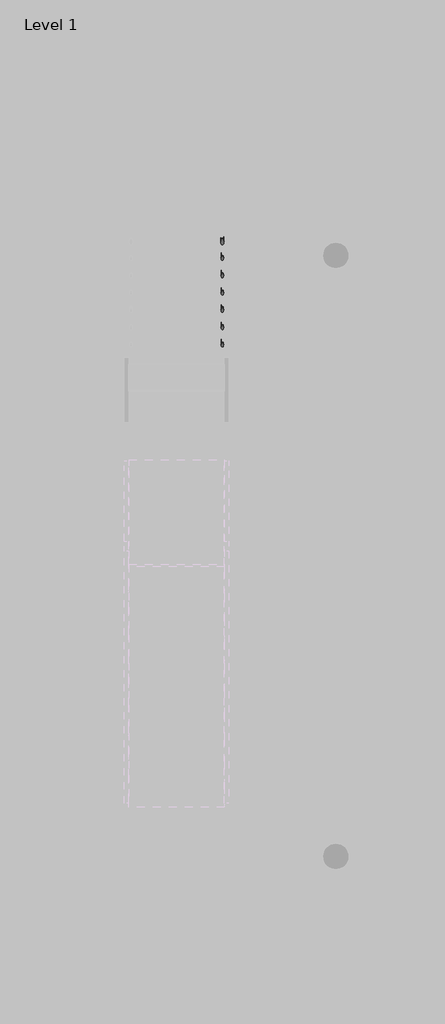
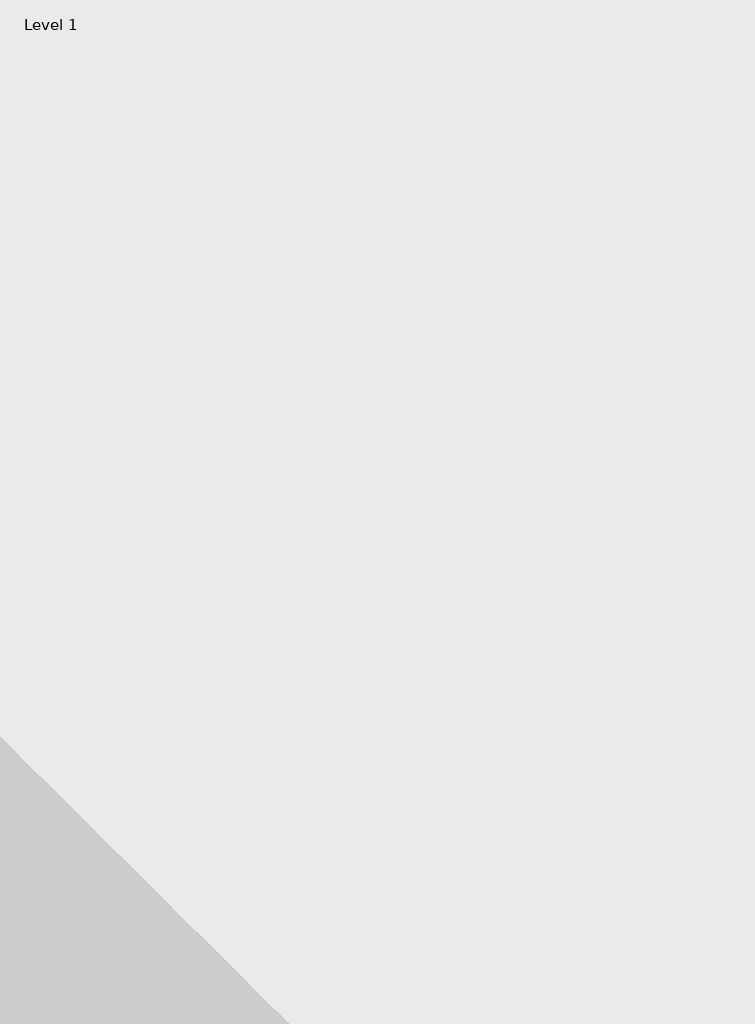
# One storey, part 24 of 27: 1 railing.
"""IFC4 building model written with IfcOpenShell, lengths in millimetres."""

from ifc_helpers import new_model, si_unit, frame, origin, place, context, project, spatial, circle_curve, ellipse_curve, element, save
from ifc_brep_helpers import plane_surface, cylinder_surface, advanced_brep

model = new_model("IFC4")

# Units and contexts
model_context = context("Model", 3, world=origin())
ifc_project = project(units=[si_unit("LENGTHUNIT", "METRE", prefix="MILLI")], contexts=[model_context])

# Site, building, storey
site = spatial("IfcSite", under=ifc_project)
building = spatial("IfcBuilding", under=site)
storey = spatial("IfcBuildingStorey", under=building, Name="Level 1", Elevation=0.0)

# Railing
placement = place(None, origin())
element("IfcRailing", 1, ObjectType="900mm Pipe", at=placement, inside=storey, context=model_context, shape_type="AdvancedBrep", body=[
    advanced_brep(
    [(3623.2567657, 6000.5392059, 1049.1094102), (3663.2567657, 6000.5392059, 1049.1094102), (3623.2567657, 3244.779188, 2780.0), (3663.2567657, 3244.779188, 2780.0), (3623.2567657, 2319.779188, 2780.0), (3663.2567657, 2319.779188, 2780.0), (3623.2567657, 2039.9015087, 2955.790939), (3663.2567657, 2039.9015087, 2955.790939), (3623.2567657, -699.4607941, 4676.3821375), (3663.2567657, -699.4607941, 4676.3821375)],
    [
        (0, 1, ellipse_curve(frame((3643.2567657, 6000.5392059, 1049.1094102), z_axis=(0.0, 1.0, 0.0), x_axis=(0.0, 0.0, -1.0)), 23.6178625, 20.0)),
        (1, 0, ellipse_curve(frame((3643.2567657, 6000.5392059, 1049.1094102), z_axis=(0.0, 1.0, 0.0), x_axis=(0.0, 0.0, -1.0)), 23.6178625, 20.0)),
        (0, 2),
        (2, 3, ellipse_curve(frame((3643.2567657, 3244.779188, 2780.0), z_axis=(0.0, 0.9609413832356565, -0.2767519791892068), x_axis=(0.0, -0.2767519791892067, -0.9609413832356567)), 20.812924, 20.0)),
        (3, 1),
        (3, 2, ellipse_curve(frame((3643.2567657, 3244.779188, 2780.0), z_axis=(0.0, 0.9609413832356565, -0.2767519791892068), x_axis=(0.0, -0.2767519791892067, -0.9609413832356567)), 20.812924, 20.0)),
        (2, 4),
        (4, 5, ellipse_curve(frame((3643.2567657, 2319.779188, 2780.0), z_axis=(0.0, 0.9609413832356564, -0.2767519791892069), x_axis=(0.0, 0.27675197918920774, 0.9609413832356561)), 20.812924, 20.0)),
        (5, 3),
        (5, 4, ellipse_curve(frame((3643.2567657, 2319.779188, 2780.0), z_axis=(0.0, 0.9609413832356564, -0.2767519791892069), x_axis=(0.0, 0.27675197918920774, 0.9609413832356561)), 20.812924, 20.0)),
        (4, 6),
        (6, 7, circle_curve(frame((3643.2567657, 2039.9015087, 2955.790939), z_axis=(0.0, 0.8468166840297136, -0.5318848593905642), x_axis=(1.0, 0.0, 0.0)), 20.0)),
        (7, 5),
        (7, 6, circle_curve(frame((3643.2567657, 2039.9015087, 2955.790939), z_axis=(0.0, 0.8468166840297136, -0.5318848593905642), x_axis=(1.0, 0.0, 0.0)), 20.0)),
        (8, 9, ellipse_curve(frame((3643.2567657, -699.4607941, 4676.3821375), z_axis=(0.0, -1.0, 0.0), x_axis=(0.0, 0.0, -1.0)), 23.6178625, 20.0)),
        (9, 8, ellipse_curve(frame((3643.2567657, -699.4607941, 4676.3821375), z_axis=(0.0, -1.0, 0.0), x_axis=(0.0, 0.0, -1.0)), 23.6178625, 20.0)),
        (6, 8),
        (9, 7),
    ],
    [
        plane_surface(frame((3643.2567657, 6000.5392059, 1072.7272727), z_axis=(0.0, 1.0, 0.0), x_axis=(0.0, 0.0, -1.0))),
        cylinder_surface(frame((3643.2567657, 5989.9015087, 1055.790939), z_axis=(0.0, 0.8468166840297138, -0.5318848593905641), x_axis=(1.0, 0.0, 0.0)), 20.0),
        cylinder_surface(frame((3643.2567657, 3250.5392059, 2780.0), z_axis=(0.0, 1.0, 0.0), x_axis=(1.0, 0.0, 0.0)), 20.0),
        cylinder_surface(frame((3643.2567657, 2314.9015087, 2783.0636663), z_axis=(0.0, 0.8468166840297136, -0.5318848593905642), x_axis=(1.0, 0.0, 0.0)), 20.0),
        plane_surface(frame((3643.2567657, -699.4607941, 4700.0), z_axis=(0.0, -1.0, 0.0), x_axis=(0.0, 0.0, -1.0))),
        cylinder_surface(frame((3643.2567657, 2039.9015087, 2955.790939), z_axis=(0.0, 0.8468166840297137, -0.5318848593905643), x_axis=(1.0, 0.0, 0.0)), 20.0),
    ],
    [
        (0, [[1, 2]]),
        (1, [[-1, 3, 4, 5]]),
        (1, [[-2, -5, 6, -3]]),
        (2, [[-4, 7, 8, 9]]),
        (2, [[-6, -9, 10, -7]]),
        (3, [[-8, 11, 12, 13]]),
        (3, [[-10, -13, 14, -11]]),
        (4, [[15, 16]]),
        (5, [[-12, 17, -16, 18]]),
        (5, [[-14, -18, -15, -17]]),
    ],
),
    advanced_brep(
    [(3628.2567657, 6000.5392059, 930.0138759), (3658.2567657, 6000.5392059, 930.0138759), (3628.2567657, 3250.5392059, 2657.2866031), (3658.2567657, 3250.5392059, 2657.2866031)],
    [
        (0, 1, ellipse_curve(frame((3643.2567657, 6000.5392059, 930.0138759), z_axis=(0.0, 1.0, 0.0), x_axis=(0.0, 0.0, -1.0)), 17.7133969, 15.0)),
        (1, 0, ellipse_curve(frame((3643.2567657, 6000.5392059, 930.0138759), z_axis=(0.0, 1.0, 0.0), x_axis=(0.0, 0.0, -1.0)), 17.7133969, 15.0)),
        (2, 3, ellipse_curve(frame((3643.2567657, 3250.5392059, 2657.2866031), z_axis=(0.0, -1.0, 0.0), x_axis=(0.0, 0.0, -1.0)), 17.7133969, 15.0)),
        (3, 2, ellipse_curve(frame((3643.2567657, 3250.5392059, 2657.2866031), z_axis=(0.0, -1.0, 0.0), x_axis=(0.0, 0.0, -1.0)), 17.7133969, 15.0)),
        (0, 2),
        (3, 1),
    ],
    [
        plane_surface(frame((3643.2567657, 6000.5392059, 947.7272727), z_axis=(0.0, 1.0, 0.0), x_axis=(0.0, 0.0, -1.0))),
        plane_surface(frame((3643.2567657, 3250.5392059, 2675.0), z_axis=(0.0, -1.0, 0.0), x_axis=(0.0, 0.0, -1.0))),
        cylinder_surface(frame((3643.2567657, 5992.560933, 935.0250225), z_axis=(0.0, 0.8468166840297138, -0.5318848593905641), x_axis=(1.0, 0.0, 0.0)), 15.0),
    ],
    [
        (0, [[1, 2]]),
        (1, [[3, 4]]),
        (2, [[-1, 5, -4, 6]]),
        (2, [[-2, -6, -3, -5]]),
    ],
),
    advanced_brep(
    [(3628.2567657, 3250.5392059, 2660.0), (3658.2567657, 3250.5392059, 2660.0), (3628.2567657, 2321.2191925, 2660.0), (3658.2567657, 2321.2191925, 2660.0), (3628.2567657, 2050.5392059, 2830.0138759), (3658.2567657, 2050.5392059, 2830.0138759)],
    [
        (0, 1, circle_curve(frame((3643.2567657, 3250.5392059, 2660.0), z_axis=(0.0, 1.0, 0.0), x_axis=(1.0, 0.0, 0.0)), 15.0)),
        (1, 0, circle_curve(frame((3643.2567657, 3250.5392059, 2660.0), z_axis=(0.0, 1.0, 0.0), x_axis=(1.0, 0.0, 0.0)), 15.0)),
        (0, 2),
        (2, 3, ellipse_curve(frame((3643.2567657, 2321.2191925, 2660.0), z_axis=(0.0, 0.9609413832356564, -0.2767519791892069), x_axis=(0.0, 0.2767519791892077, 0.9609413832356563)), 15.609693, 15.0)),
        (3, 1),
        (3, 2, ellipse_curve(frame((3643.2567657, 2321.2191925, 2660.0), z_axis=(0.0, 0.9609413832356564, -0.2767519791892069), x_axis=(0.0, 0.2767519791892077, 0.9609413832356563)), 15.609693, 15.0)),
        (4, 5, ellipse_curve(frame((3643.2567657, 2050.5392059, 2830.0138759), z_axis=(0.0, -1.0, 0.0), x_axis=(0.0, 0.0, -0.9999999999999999)), 17.7133969, 15.0)),
        (5, 4, ellipse_curve(frame((3643.2567657, 2050.5392059, 2830.0138759), z_axis=(0.0, -1.0, 0.0), x_axis=(0.0, 0.0, -0.9999999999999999)), 17.7133969, 15.0)),
        (2, 4),
        (5, 3),
    ],
    [
        plane_surface(frame((3643.2567657, 3250.5392059, 2675.0), z_axis=(0.0, 1.0, 0.0), x_axis=(0.0, 0.0, -1.0))),
        cylinder_surface(frame((3643.2567657, 3250.5392059, 2660.0), z_axis=(0.0, 1.0, 0.0), x_axis=(1.0, 0.0, 0.0)), 15.0),
        plane_surface(frame((3643.2567657, 2050.5392059, 2847.7272727), z_axis=(0.0, -1.0, 0.0), x_axis=(0.0, 0.0, -1.0))),
        cylinder_surface(frame((3643.2567657, 2317.560933, 2662.2977497), z_axis=(0.0, 0.8468166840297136, -0.5318848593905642), x_axis=(1.0, 0.0, 0.0)), 15.0),
    ],
    [
        (0, [[1, 2]]),
        (1, [[-1, 3, 4, 5]]),
        (1, [[-2, -5, 6, -3]]),
        (2, [[7, 8]]),
        (3, [[-4, 9, -8, 10]]),
        (3, [[-6, -10, -7, -9]]),
    ],
),
    advanced_brep(
    [(3628.2567657, 2050.5392059, 2830.0138759), (3658.2567657, 2050.5392059, 2830.0138759), (3628.2567657, -699.4607941, 4557.2866031), (3658.2567657, -699.4607941, 4557.2866031)],
    [
        (0, 1, ellipse_curve(frame((3643.2567657, 2050.5392059, 2830.0138759), z_axis=(0.0, 1.0, 0.0), x_axis=(0.0, 0.0, -0.9999999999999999)), 17.7133969, 15.0)),
        (1, 0, ellipse_curve(frame((3643.2567657, 2050.5392059, 2830.0138759), z_axis=(0.0, 1.0, 0.0), x_axis=(0.0, 0.0, -0.9999999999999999)), 17.7133969, 15.0)),
        (2, 3, ellipse_curve(frame((3643.2567657, -699.4607941, 4557.2866031), z_axis=(0.0, -1.0, 0.0), x_axis=(0.0, 0.0, -0.9999999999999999)), 17.7133969, 15.0)),
        (3, 2, ellipse_curve(frame((3643.2567657, -699.4607941, 4557.2866031), z_axis=(0.0, -1.0, 0.0), x_axis=(0.0, 0.0, -0.9999999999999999)), 17.7133969, 15.0)),
        (0, 2),
        (3, 1),
    ],
    [
        plane_surface(frame((3643.2567657, 2050.5392059, 2847.7272727), z_axis=(0.0, 1.0, 0.0), x_axis=(0.0, 0.0, -1.0))),
        plane_surface(frame((3643.2567657, -699.4607941, 4575.0), z_axis=(0.0, -1.0, 0.0), x_axis=(0.0, 0.0, -1.0))),
        cylinder_surface(frame((3643.2567657, 2042.560933, 2835.0250225), z_axis=(0.0, 0.8468166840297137, -0.5318848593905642), x_axis=(1.0, 0.0, 0.0)), 15.0),
    ],
    [
        (0, [[1, 2]]),
        (1, [[3, 4]]),
        (2, [[-1, 5, -4, 6]]),
        (2, [[-2, -6, -3, -5]]),
    ],
),
    advanced_brep(
    [(3628.2567657, 6000.5392059, 805.0138759), (3658.2567657, 6000.5392059, 805.0138759), (3628.2567657, 3250.5392059, 2532.2866031), (3658.2567657, 3250.5392059, 2532.2866031)],
    [
        (0, 1, ellipse_curve(frame((3643.2567657, 6000.5392059, 805.0138759), z_axis=(0.0, 1.0, 0.0), x_axis=(0.0, 0.0, -1.0)), 17.7133969, 15.0)),
        (1, 0, ellipse_curve(frame((3643.2567657, 6000.5392059, 805.0138759), z_axis=(0.0, 1.0, 0.0), x_axis=(0.0, 0.0, -1.0)), 17.7133969, 15.0)),
        (2, 3, ellipse_curve(frame((3643.2567657, 3250.5392059, 2532.2866031), z_axis=(0.0, -1.0, 0.0), x_axis=(0.0, 0.0, -1.0)), 17.7133969, 15.0)),
        (3, 2, ellipse_curve(frame((3643.2567657, 3250.5392059, 2532.2866031), z_axis=(0.0, -1.0, 0.0), x_axis=(0.0, 0.0, -1.0)), 17.7133969, 15.0)),
        (0, 2),
        (3, 1),
    ],
    [
        plane_surface(frame((3643.2567657, 6000.5392059, 822.7272727), z_axis=(0.0, 1.0, 0.0), x_axis=(0.0, 0.0, -1.0))),
        plane_surface(frame((3643.2567657, 3250.5392059, 2550.0), z_axis=(0.0, -1.0, 0.0), x_axis=(0.0, 0.0, -1.0))),
        cylinder_surface(frame((3643.2567657, 5992.560933, 810.0250225), z_axis=(0.0, 0.8468166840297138, -0.5318848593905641), x_axis=(1.0, 0.0, 0.0)), 15.0),
    ],
    [
        (0, [[1, 2]]),
        (1, [[3, 4]]),
        (2, [[-1, 5, -4, 6]]),
        (2, [[-2, -6, -3, -5]]),
    ],
),
    advanced_brep(
    [(3628.2567657, 3250.5392059, 2535.0), (3658.2567657, 3250.5392059, 2535.0), (3628.2567657, 2321.2191925, 2535.0), (3658.2567657, 2321.2191925, 2535.0), (3628.2567657, 2050.5392059, 2705.0138759), (3658.2567657, 2050.5392059, 2705.0138759)],
    [
        (0, 1, circle_curve(frame((3643.2567657, 3250.5392059, 2535.0), z_axis=(0.0, 1.0, 0.0), x_axis=(1.0, 0.0, 0.0)), 15.0)),
        (1, 0, circle_curve(frame((3643.2567657, 3250.5392059, 2535.0), z_axis=(0.0, 1.0, 0.0), x_axis=(1.0, 0.0, 0.0)), 15.0)),
        (0, 2),
        (2, 3, ellipse_curve(frame((3643.2567657, 2321.2191925, 2535.0), z_axis=(0.0, 0.9609413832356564, -0.2767519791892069), x_axis=(0.0, 0.2767519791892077, 0.9609413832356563)), 15.609693, 15.0)),
        (3, 1),
        (3, 2, ellipse_curve(frame((3643.2567657, 2321.2191925, 2535.0), z_axis=(0.0, 0.9609413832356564, -0.2767519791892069), x_axis=(0.0, 0.2767519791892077, 0.9609413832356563)), 15.609693, 15.0)),
        (4, 5, ellipse_curve(frame((3643.2567657, 2050.5392059, 2705.0138759), z_axis=(0.0, -1.0, 0.0), x_axis=(0.0, 0.0, -0.9999999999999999)), 17.7133969, 15.0)),
        (5, 4, ellipse_curve(frame((3643.2567657, 2050.5392059, 2705.0138759), z_axis=(0.0, -1.0, 0.0), x_axis=(0.0, 0.0, -0.9999999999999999)), 17.7133969, 15.0)),
        (2, 4),
        (5, 3),
    ],
    [
        plane_surface(frame((3643.2567657, 3250.5392059, 2550.0), z_axis=(0.0, 1.0, 0.0), x_axis=(0.0, 0.0, -1.0))),
        cylinder_surface(frame((3643.2567657, 3250.5392059, 2535.0), z_axis=(0.0, 1.0, 0.0), x_axis=(1.0, 0.0, 0.0)), 15.0),
        plane_surface(frame((3643.2567657, 2050.5392059, 2722.7272727), z_axis=(0.0, -1.0, 0.0), x_axis=(0.0, 0.0, -1.0))),
        cylinder_surface(frame((3643.2567657, 2317.560933, 2537.2977497), z_axis=(0.0, 0.8468166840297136, -0.5318848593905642), x_axis=(1.0, 0.0, 0.0)), 15.0),
    ],
    [
        (0, [[1, 2]]),
        (1, [[-1, 3, 4, 5]]),
        (1, [[-2, -5, 6, -3]]),
        (2, [[7, 8]]),
        (3, [[-4, 9, -8, 10]]),
        (3, [[-6, -10, -7, -9]]),
    ],
),
    advanced_brep(
    [(3628.2567657, 2050.5392059, 2705.0138759), (3658.2567657, 2050.5392059, 2705.0138759), (3628.2567657, -699.4607941, 4432.2866031), (3658.2567657, -699.4607941, 4432.2866031)],
    [
        (0, 1, ellipse_curve(frame((3643.2567657, 2050.5392059, 2705.0138759), z_axis=(0.0, 1.0, 0.0), x_axis=(0.0, 0.0, -0.9999999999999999)), 17.7133969, 15.0)),
        (1, 0, ellipse_curve(frame((3643.2567657, 2050.5392059, 2705.0138759), z_axis=(0.0, 1.0, 0.0), x_axis=(0.0, 0.0, -0.9999999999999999)), 17.7133969, 15.0)),
        (2, 3, ellipse_curve(frame((3643.2567657, -699.4607941, 4432.2866031), z_axis=(0.0, -1.0, 0.0), x_axis=(0.0, 0.0, -0.9999999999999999)), 17.7133969, 15.0)),
        (3, 2, ellipse_curve(frame((3643.2567657, -699.4607941, 4432.2866031), z_axis=(0.0, -1.0, 0.0), x_axis=(0.0, 0.0, -0.9999999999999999)), 17.7133969, 15.0)),
        (0, 2),
        (3, 1),
    ],
    [
        plane_surface(frame((3643.2567657, 2050.5392059, 2722.7272727), z_axis=(0.0, 1.0, 0.0), x_axis=(0.0, 0.0, -1.0))),
        plane_surface(frame((3643.2567657, -699.4607941, 4450.0), z_axis=(0.0, -1.0, 0.0), x_axis=(0.0, 0.0, -1.0))),
        cylinder_surface(frame((3643.2567657, 2042.560933, 2710.0250225), z_axis=(0.0, 0.8468166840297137, -0.5318848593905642), x_axis=(1.0, 0.0, 0.0)), 15.0),
    ],
    [
        (0, [[1, 2]]),
        (1, [[3, 4]]),
        (2, [[-1, 5, -4, 6]]),
        (2, [[-2, -6, -3, -5]]),
    ],
),
    advanced_brep(
    [(3628.2567657, 6000.5392059, 680.0138759), (3658.2567657, 6000.5392059, 680.0138759), (3628.2567657, 3250.5392059, 2407.2866031), (3658.2567657, 3250.5392059, 2407.2866031)],
    [
        (0, 1, ellipse_curve(frame((3643.2567657, 6000.5392059, 680.0138759), z_axis=(0.0, 1.0, 0.0), x_axis=(0.0, 0.0, -1.0)), 17.7133969, 15.0)),
        (1, 0, ellipse_curve(frame((3643.2567657, 6000.5392059, 680.0138759), z_axis=(0.0, 1.0, 0.0), x_axis=(0.0, 0.0, -1.0)), 17.7133969, 15.0)),
        (2, 3, ellipse_curve(frame((3643.2567657, 3250.5392059, 2407.2866031), z_axis=(0.0, -1.0, 0.0), x_axis=(0.0, 0.0, -1.0)), 17.7133969, 15.0)),
        (3, 2, ellipse_curve(frame((3643.2567657, 3250.5392059, 2407.2866031), z_axis=(0.0, -1.0, 0.0), x_axis=(0.0, 0.0, -1.0)), 17.7133969, 15.0)),
        (0, 2),
        (3, 1),
    ],
    [
        plane_surface(frame((3643.2567657, 6000.5392059, 697.7272727), z_axis=(0.0, 1.0, 0.0), x_axis=(0.0, 0.0, -1.0))),
        plane_surface(frame((3643.2567657, 3250.5392059, 2425.0), z_axis=(0.0, -1.0, 0.0), x_axis=(0.0, 0.0, -1.0))),
        cylinder_surface(frame((3643.2567657, 5992.560933, 685.0250225), z_axis=(0.0, 0.8468166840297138, -0.5318848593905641), x_axis=(1.0, 0.0, 0.0)), 15.0),
    ],
    [
        (0, [[1, 2]]),
        (1, [[3, 4]]),
        (2, [[-1, 5, -4, 6]]),
        (2, [[-2, -6, -3, -5]]),
    ],
),
    advanced_brep(
    [(3628.2567657, 3250.5392059, 2410.0), (3658.2567657, 3250.5392059, 2410.0), (3628.2567657, 2321.2191925, 2410.0), (3658.2567657, 2321.2191925, 2410.0), (3628.2567657, 2050.5392059, 2580.0138759), (3658.2567657, 2050.5392059, 2580.0138759)],
    [
        (0, 1, circle_curve(frame((3643.2567657, 3250.5392059, 2410.0), z_axis=(0.0, 1.0, 0.0), x_axis=(1.0, 0.0, 0.0)), 15.0)),
        (1, 0, circle_curve(frame((3643.2567657, 3250.5392059, 2410.0), z_axis=(0.0, 1.0, 0.0), x_axis=(1.0, 0.0, 0.0)), 15.0)),
        (0, 2),
        (2, 3, ellipse_curve(frame((3643.2567657, 2321.2191925, 2410.0), z_axis=(0.0, 0.9609413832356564, -0.2767519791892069), x_axis=(0.0, 0.2767519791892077, 0.9609413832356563)), 15.609693, 15.0)),
        (3, 1),
        (3, 2, ellipse_curve(frame((3643.2567657, 2321.2191925, 2410.0), z_axis=(0.0, 0.9609413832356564, -0.2767519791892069), x_axis=(0.0, 0.2767519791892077, 0.9609413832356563)), 15.609693, 15.0)),
        (4, 5, ellipse_curve(frame((3643.2567657, 2050.5392059, 2580.0138759), z_axis=(0.0, -1.0, 0.0), x_axis=(0.0, 0.0, -0.9999999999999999)), 17.7133969, 15.0)),
        (5, 4, ellipse_curve(frame((3643.2567657, 2050.5392059, 2580.0138759), z_axis=(0.0, -1.0, 0.0), x_axis=(0.0, 0.0, -0.9999999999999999)), 17.7133969, 15.0)),
        (2, 4),
        (5, 3),
    ],
    [
        plane_surface(frame((3643.2567657, 3250.5392059, 2425.0), z_axis=(0.0, 1.0, 0.0), x_axis=(0.0, 0.0, -1.0))),
        cylinder_surface(frame((3643.2567657, 3250.5392059, 2410.0), z_axis=(0.0, 1.0, 0.0), x_axis=(1.0, 0.0, 0.0)), 15.0),
        plane_surface(frame((3643.2567657, 2050.5392059, 2597.7272727), z_axis=(0.0, -1.0, 0.0), x_axis=(0.0, 0.0, -1.0))),
        cylinder_surface(frame((3643.2567657, 2317.560933, 2412.2977497), z_axis=(0.0, 0.8468166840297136, -0.5318848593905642), x_axis=(1.0, 0.0, 0.0)), 15.0),
    ],
    [
        (0, [[1, 2]]),
        (1, [[-1, 3, 4, 5]]),
        (1, [[-2, -5, 6, -3]]),
        (2, [[7, 8]]),
        (3, [[-4, 9, -8, 10]]),
        (3, [[-6, -10, -7, -9]]),
    ],
),
    advanced_brep(
    [(3628.2567657, 2050.5392059, 2580.0138759), (3658.2567657, 2050.5392059, 2580.0138759), (3628.2567657, -699.4607941, 4307.2866031), (3658.2567657, -699.4607941, 4307.2866031)],
    [
        (0, 1, ellipse_curve(frame((3643.2567657, 2050.5392059, 2580.0138759), z_axis=(0.0, 1.0, 0.0), x_axis=(0.0, 0.0, -0.9999999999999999)), 17.7133969, 15.0)),
        (1, 0, ellipse_curve(frame((3643.2567657, 2050.5392059, 2580.0138759), z_axis=(0.0, 1.0, 0.0), x_axis=(0.0, 0.0, -0.9999999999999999)), 17.7133969, 15.0)),
        (2, 3, ellipse_curve(frame((3643.2567657, -699.4607941, 4307.2866031), z_axis=(0.0, -1.0, 0.0), x_axis=(0.0, 0.0, -0.9999999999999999)), 17.7133969, 15.0)),
        (3, 2, ellipse_curve(frame((3643.2567657, -699.4607941, 4307.2866031), z_axis=(0.0, -1.0, 0.0), x_axis=(0.0, 0.0, -0.9999999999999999)), 17.7133969, 15.0)),
        (0, 2),
        (3, 1),
    ],
    [
        plane_surface(frame((3643.2567657, 2050.5392059, 2597.7272727), z_axis=(0.0, 1.0, 0.0), x_axis=(0.0, 0.0, -1.0))),
        plane_surface(frame((3643.2567657, -699.4607941, 4325.0), z_axis=(0.0, -1.0, 0.0), x_axis=(0.0, 0.0, -1.0))),
        cylinder_surface(frame((3643.2567657, 2042.560933, 2585.0250225), z_axis=(0.0, 0.8468166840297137, -0.5318848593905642), x_axis=(1.0, 0.0, 0.0)), 15.0),
    ],
    [
        (0, [[1, 2]]),
        (1, [[3, 4]]),
        (2, [[-1, 5, -4, 6]]),
        (2, [[-2, -6, -3, -5]]),
    ],
),
    advanced_brep(
    [(3628.2567657, 6000.5392059, 555.0138759), (3658.2567657, 6000.5392059, 555.0138759), (3628.2567657, 3250.5392059, 2282.2866031), (3658.2567657, 3250.5392059, 2282.2866031)],
    [
        (0, 1, ellipse_curve(frame((3643.2567657, 6000.5392059, 555.0138759), z_axis=(0.0, 1.0, 0.0), x_axis=(0.0, 0.0, -1.0)), 17.7133969, 15.0)),
        (1, 0, ellipse_curve(frame((3643.2567657, 6000.5392059, 555.0138759), z_axis=(0.0, 1.0, 0.0), x_axis=(0.0, 0.0, -1.0)), 17.7133969, 15.0)),
        (2, 3, ellipse_curve(frame((3643.2567657, 3250.5392059, 2282.2866031), z_axis=(0.0, -1.0, 0.0), x_axis=(0.0, 0.0, -1.0)), 17.7133969, 15.0)),
        (3, 2, ellipse_curve(frame((3643.2567657, 3250.5392059, 2282.2866031), z_axis=(0.0, -1.0, 0.0), x_axis=(0.0, 0.0, -1.0)), 17.7133969, 15.0)),
        (0, 2),
        (3, 1),
    ],
    [
        plane_surface(frame((3643.2567657, 6000.5392059, 572.7272727), z_axis=(0.0, 1.0, 0.0), x_axis=(0.0, 0.0, -1.0))),
        plane_surface(frame((3643.2567657, 3250.5392059, 2300.0), z_axis=(0.0, -1.0, 0.0), x_axis=(0.0, 0.0, -1.0))),
        cylinder_surface(frame((3643.2567657, 5992.560933, 560.0250225), z_axis=(0.0, 0.8468166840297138, -0.5318848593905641), x_axis=(1.0, 0.0, 0.0)), 15.0),
    ],
    [
        (0, [[1, 2]]),
        (1, [[3, 4]]),
        (2, [[-1, 5, -4, 6]]),
        (2, [[-2, -6, -3, -5]]),
    ],
),
    advanced_brep(
    [(3628.2567657, 3250.5392059, 2285.0), (3658.2567657, 3250.5392059, 2285.0), (3628.2567657, 2321.2191925, 2285.0), (3658.2567657, 2321.2191925, 2285.0), (3628.2567657, 2050.5392059, 2455.0138759), (3658.2567657, 2050.5392059, 2455.0138759)],
    [
        (0, 1, circle_curve(frame((3643.2567657, 3250.5392059, 2285.0), z_axis=(0.0, 1.0, 0.0), x_axis=(1.0, 0.0, 0.0)), 15.0)),
        (1, 0, circle_curve(frame((3643.2567657, 3250.5392059, 2285.0), z_axis=(0.0, 1.0, 0.0), x_axis=(1.0, 0.0, 0.0)), 15.0)),
        (0, 2),
        (2, 3, ellipse_curve(frame((3643.2567657, 2321.2191925, 2285.0), z_axis=(0.0, 0.9609413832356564, -0.2767519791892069), x_axis=(0.0, 0.2767519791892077, 0.9609413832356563)), 15.609693, 15.0)),
        (3, 1),
        (3, 2, ellipse_curve(frame((3643.2567657, 2321.2191925, 2285.0), z_axis=(0.0, 0.9609413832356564, -0.2767519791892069), x_axis=(0.0, 0.2767519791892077, 0.9609413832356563)), 15.609693, 15.0)),
        (4, 5, ellipse_curve(frame((3643.2567657, 2050.5392059, 2455.0138759), z_axis=(0.0, -1.0, 0.0), x_axis=(0.0, 0.0, -0.9999999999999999)), 17.7133969, 15.0)),
        (5, 4, ellipse_curve(frame((3643.2567657, 2050.5392059, 2455.0138759), z_axis=(0.0, -1.0, 0.0), x_axis=(0.0, 0.0, -0.9999999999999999)), 17.7133969, 15.0)),
        (2, 4),
        (5, 3),
    ],
    [
        plane_surface(frame((3643.2567657, 3250.5392059, 2300.0), z_axis=(0.0, 1.0, 0.0), x_axis=(0.0, 0.0, -1.0))),
        cylinder_surface(frame((3643.2567657, 3250.5392059, 2285.0), z_axis=(0.0, 1.0, 0.0), x_axis=(1.0, 0.0, 0.0)), 15.0),
        plane_surface(frame((3643.2567657, 2050.5392059, 2472.7272727), z_axis=(0.0, -1.0, 0.0), x_axis=(0.0, 0.0, -1.0))),
        cylinder_surface(frame((3643.2567657, 2317.560933, 2287.2977497), z_axis=(0.0, 0.8468166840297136, -0.5318848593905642), x_axis=(1.0, 0.0, 0.0)), 15.0),
    ],
    [
        (0, [[1, 2]]),
        (1, [[-1, 3, 4, 5]]),
        (1, [[-2, -5, 6, -3]]),
        (2, [[7, 8]]),
        (3, [[-4, 9, -8, 10]]),
        (3, [[-6, -10, -7, -9]]),
    ],
),
    advanced_brep(
    [(3628.2567657, 2050.5392059, 2455.0138759), (3658.2567657, 2050.5392059, 2455.0138759), (3628.2567657, -699.4607941, 4182.2866031), (3658.2567657, -699.4607941, 4182.2866031)],
    [
        (0, 1, ellipse_curve(frame((3643.2567657, 2050.5392059, 2455.0138759), z_axis=(0.0, 1.0, 0.0), x_axis=(0.0, 0.0, -0.9999999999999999)), 17.7133969, 15.0)),
        (1, 0, ellipse_curve(frame((3643.2567657, 2050.5392059, 2455.0138759), z_axis=(0.0, 1.0, 0.0), x_axis=(0.0, 0.0, -0.9999999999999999)), 17.7133969, 15.0)),
        (2, 3, ellipse_curve(frame((3643.2567657, -699.4607941, 4182.2866031), z_axis=(0.0, -1.0, 0.0), x_axis=(0.0, 0.0, -0.9999999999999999)), 17.7133969, 15.0)),
        (3, 2, ellipse_curve(frame((3643.2567657, -699.4607941, 4182.2866031), z_axis=(0.0, -1.0, 0.0), x_axis=(0.0, 0.0, -0.9999999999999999)), 17.7133969, 15.0)),
        (0, 2),
        (3, 1),
    ],
    [
        plane_surface(frame((3643.2567657, 2050.5392059, 2472.7272727), z_axis=(0.0, 1.0, 0.0), x_axis=(0.0, 0.0, -1.0))),
        plane_surface(frame((3643.2567657, -699.4607941, 4200.0), z_axis=(0.0, -1.0, 0.0), x_axis=(0.0, 0.0, -1.0))),
        cylinder_surface(frame((3643.2567657, 2042.560933, 2460.0250225), z_axis=(0.0, 0.8468166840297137, -0.5318848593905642), x_axis=(1.0, 0.0, 0.0)), 15.0),
    ],
    [
        (0, [[1, 2]]),
        (1, [[3, 4]]),
        (2, [[-1, 5, -4, 6]]),
        (2, [[-2, -6, -3, -5]]),
    ],
),
    advanced_brep(
    [(3628.2567657, 6000.5392059, 430.0138759), (3658.2567657, 6000.5392059, 430.0138759), (3628.2567657, 3250.5392059, 2157.2866031), (3658.2567657, 3250.5392059, 2157.2866031)],
    [
        (0, 1, ellipse_curve(frame((3643.2567657, 6000.5392059, 430.0138759), z_axis=(0.0, 1.0, 0.0), x_axis=(0.0, 0.0, -1.0)), 17.7133969, 15.0)),
        (1, 0, ellipse_curve(frame((3643.2567657, 6000.5392059, 430.0138759), z_axis=(0.0, 1.0, 0.0), x_axis=(0.0, 0.0, -1.0)), 17.7133969, 15.0)),
        (2, 3, ellipse_curve(frame((3643.2567657, 3250.5392059, 2157.2866031), z_axis=(0.0, -1.0, 0.0), x_axis=(0.0, 0.0, -1.0)), 17.7133969, 15.0)),
        (3, 2, ellipse_curve(frame((3643.2567657, 3250.5392059, 2157.2866031), z_axis=(0.0, -1.0, 0.0), x_axis=(0.0, 0.0, -1.0)), 17.7133969, 15.0)),
        (0, 2),
        (3, 1),
    ],
    [
        plane_surface(frame((3643.2567657, 6000.5392059, 447.7272727), z_axis=(0.0, 1.0, 0.0), x_axis=(0.0, 0.0, -1.0))),
        plane_surface(frame((3643.2567657, 3250.5392059, 2175.0), z_axis=(0.0, -1.0, 0.0), x_axis=(0.0, 0.0, -1.0))),
        cylinder_surface(frame((3643.2567657, 5992.560933, 435.0250225), z_axis=(0.0, 0.8468166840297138, -0.5318848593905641), x_axis=(1.0, 0.0, 0.0)), 15.0),
    ],
    [
        (0, [[1, 2]]),
        (1, [[3, 4]]),
        (2, [[-1, 5, -4, 6]]),
        (2, [[-2, -6, -3, -5]]),
    ],
),
    advanced_brep(
    [(3628.2567657, 3250.5392059, 2160.0), (3658.2567657, 3250.5392059, 2160.0), (3628.2567657, 2321.2191925, 2160.0), (3658.2567657, 2321.2191925, 2160.0), (3628.2567657, 2050.5392059, 2330.0138759), (3658.2567657, 2050.5392059, 2330.0138759)],
    [
        (0, 1, circle_curve(frame((3643.2567657, 3250.5392059, 2160.0), z_axis=(0.0, 1.0, 0.0), x_axis=(1.0, 0.0, 0.0)), 15.0)),
        (1, 0, circle_curve(frame((3643.2567657, 3250.5392059, 2160.0), z_axis=(0.0, 1.0, 0.0), x_axis=(1.0, 0.0, 0.0)), 15.0)),
        (0, 2),
        (2, 3, ellipse_curve(frame((3643.2567657, 2321.2191925, 2160.0), z_axis=(0.0, 0.9609413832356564, -0.2767519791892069), x_axis=(0.0, 0.2767519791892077, 0.9609413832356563)), 15.609693, 15.0)),
        (3, 1),
        (3, 2, ellipse_curve(frame((3643.2567657, 2321.2191925, 2160.0), z_axis=(0.0, 0.9609413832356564, -0.2767519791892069), x_axis=(0.0, 0.2767519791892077, 0.9609413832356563)), 15.609693, 15.0)),
        (4, 5, ellipse_curve(frame((3643.2567657, 2050.5392059, 2330.0138759), z_axis=(0.0, -1.0, 0.0), x_axis=(0.0, 0.0, -0.9999999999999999)), 17.7133969, 15.0)),
        (5, 4, ellipse_curve(frame((3643.2567657, 2050.5392059, 2330.0138759), z_axis=(0.0, -1.0, 0.0), x_axis=(0.0, 0.0, -0.9999999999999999)), 17.7133969, 15.0)),
        (2, 4),
        (5, 3),
    ],
    [
        plane_surface(frame((3643.2567657, 3250.5392059, 2175.0), z_axis=(0.0, 1.0, 0.0), x_axis=(0.0, 0.0, -1.0))),
        cylinder_surface(frame((3643.2567657, 3250.5392059, 2160.0), z_axis=(0.0, 1.0, 0.0), x_axis=(1.0, 0.0, 0.0)), 15.0),
        plane_surface(frame((3643.2567657, 2050.5392059, 2347.7272727), z_axis=(0.0, -1.0, 0.0), x_axis=(0.0, 0.0, -1.0))),
        cylinder_surface(frame((3643.2567657, 2317.560933, 2162.2977497), z_axis=(0.0, 0.8468166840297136, -0.5318848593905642), x_axis=(1.0, 0.0, 0.0)), 15.0),
    ],
    [
        (0, [[1, 2]]),
        (1, [[-1, 3, 4, 5]]),
        (1, [[-2, -5, 6, -3]]),
        (2, [[7, 8]]),
        (3, [[-4, 9, -8, 10]]),
        (3, [[-6, -10, -7, -9]]),
    ],
),
    advanced_brep(
    [(3628.2567657, 2050.5392059, 2330.0138759), (3658.2567657, 2050.5392059, 2330.0138759), (3628.2567657, -699.4607941, 4057.2866031), (3658.2567657, -699.4607941, 4057.2866031)],
    [
        (0, 1, ellipse_curve(frame((3643.2567657, 2050.5392059, 2330.0138759), z_axis=(0.0, 1.0, 0.0), x_axis=(0.0, 0.0, -0.9999999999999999)), 17.7133969, 15.0)),
        (1, 0, ellipse_curve(frame((3643.2567657, 2050.5392059, 2330.0138759), z_axis=(0.0, 1.0, 0.0), x_axis=(0.0, 0.0, -0.9999999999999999)), 17.7133969, 15.0)),
        (2, 3, ellipse_curve(frame((3643.2567657, -699.4607941, 4057.2866031), z_axis=(0.0, -1.0, 0.0), x_axis=(0.0, 0.0, -0.9999999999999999)), 17.7133969, 15.0)),
        (3, 2, ellipse_curve(frame((3643.2567657, -699.4607941, 4057.2866031), z_axis=(0.0, -1.0, 0.0), x_axis=(0.0, 0.0, -0.9999999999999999)), 17.7133969, 15.0)),
        (0, 2),
        (3, 1),
    ],
    [
        plane_surface(frame((3643.2567657, 2050.5392059, 2347.7272727), z_axis=(0.0, 1.0, 0.0), x_axis=(0.0, 0.0, -1.0))),
        plane_surface(frame((3643.2567657, -699.4607941, 4075.0), z_axis=(0.0, -1.0, 0.0), x_axis=(0.0, 0.0, -1.0))),
        cylinder_surface(frame((3643.2567657, 2042.560933, 2335.0250225), z_axis=(0.0, 0.8468166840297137, -0.5318848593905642), x_axis=(1.0, 0.0, 0.0)), 15.0),
    ],
    [
        (0, [[1, 2]]),
        (1, [[3, 4]]),
        (2, [[-1, 5, -4, 6]]),
        (2, [[-2, -6, -3, -5]]),
    ],
),
    advanced_brep(
    [(3628.2567657, 6000.5392059, 305.0138759), (3658.2567657, 6000.5392059, 305.0138759), (3628.2567657, 3250.5392059, 2032.2866031), (3658.2567657, 3250.5392059, 2032.2866031)],
    [
        (0, 1, ellipse_curve(frame((3643.2567657, 6000.5392059, 305.0138759), z_axis=(0.0, 1.0, 0.0), x_axis=(0.0, 0.0, -1.0)), 17.7133969, 15.0)),
        (1, 0, ellipse_curve(frame((3643.2567657, 6000.5392059, 305.0138759), z_axis=(0.0, 1.0, 0.0), x_axis=(0.0, 0.0, -1.0)), 17.7133969, 15.0)),
        (2, 3, ellipse_curve(frame((3643.2567657, 3250.5392059, 2032.2866031), z_axis=(0.0, -1.0, 0.0), x_axis=(0.0, 0.0, -1.0)), 17.7133969, 15.0)),
        (3, 2, ellipse_curve(frame((3643.2567657, 3250.5392059, 2032.2866031), z_axis=(0.0, -1.0, 0.0), x_axis=(0.0, 0.0, -1.0)), 17.7133969, 15.0)),
        (0, 2),
        (3, 1),
    ],
    [
        plane_surface(frame((3643.2567657, 6000.5392059, 322.7272727), z_axis=(0.0, 1.0, 0.0), x_axis=(0.0, 0.0, -1.0))),
        plane_surface(frame((3643.2567657, 3250.5392059, 2050.0), z_axis=(0.0, -1.0, 0.0), x_axis=(0.0, 0.0, -1.0))),
        cylinder_surface(frame((3643.2567657, 5992.560933, 310.0250225), z_axis=(0.0, 0.8468166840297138, -0.5318848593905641), x_axis=(1.0, 0.0, 0.0)), 15.0),
    ],
    [
        (0, [[1, 2]]),
        (1, [[3, 4]]),
        (2, [[-1, 5, -4, 6]]),
        (2, [[-2, -6, -3, -5]]),
    ],
),
    advanced_brep(
    [(3628.2567657, 3250.5392059, 2035.0), (3658.2567657, 3250.5392059, 2035.0), (3628.2567657, 2321.2191925, 2035.0), (3658.2567657, 2321.2191925, 2035.0), (3628.2567657, 2050.5392059, 2205.0138759), (3658.2567657, 2050.5392059, 2205.0138759)],
    [
        (0, 1, circle_curve(frame((3643.2567657, 3250.5392059, 2035.0), z_axis=(0.0, 1.0, 0.0), x_axis=(1.0, 0.0, 0.0)), 15.0)),
        (1, 0, circle_curve(frame((3643.2567657, 3250.5392059, 2035.0), z_axis=(0.0, 1.0, 0.0), x_axis=(1.0, 0.0, 0.0)), 15.0)),
        (0, 2),
        (2, 3, ellipse_curve(frame((3643.2567657, 2321.2191925, 2035.0), z_axis=(0.0, 0.9609413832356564, -0.2767519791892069), x_axis=(0.0, 0.2767519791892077, 0.9609413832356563)), 15.609693, 15.0)),
        (3, 1),
        (3, 2, ellipse_curve(frame((3643.2567657, 2321.2191925, 2035.0), z_axis=(0.0, 0.9609413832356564, -0.2767519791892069), x_axis=(0.0, 0.2767519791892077, 0.9609413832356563)), 15.609693, 15.0)),
        (4, 5, ellipse_curve(frame((3643.2567657, 2050.5392059, 2205.0138759), z_axis=(0.0, -1.0, 0.0), x_axis=(0.0, 0.0, -0.9999999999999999)), 17.7133969, 15.0)),
        (5, 4, ellipse_curve(frame((3643.2567657, 2050.5392059, 2205.0138759), z_axis=(0.0, -1.0, 0.0), x_axis=(0.0, 0.0, -0.9999999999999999)), 17.7133969, 15.0)),
        (2, 4),
        (5, 3),
    ],
    [
        plane_surface(frame((3643.2567657, 3250.5392059, 2050.0), z_axis=(0.0, 1.0, 0.0), x_axis=(0.0, 0.0, -1.0))),
        cylinder_surface(frame((3643.2567657, 3250.5392059, 2035.0), z_axis=(0.0, 1.0, 0.0), x_axis=(1.0, 0.0, 0.0)), 15.0),
        plane_surface(frame((3643.2567657, 2050.5392059, 2222.7272727), z_axis=(0.0, -1.0, 0.0), x_axis=(0.0, 0.0, -1.0))),
        cylinder_surface(frame((3643.2567657, 2317.560933, 2037.2977497), z_axis=(0.0, 0.8468166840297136, -0.5318848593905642), x_axis=(1.0, 0.0, 0.0)), 15.0),
    ],
    [
        (0, [[1, 2]]),
        (1, [[-1, 3, 4, 5]]),
        (1, [[-2, -5, 6, -3]]),
        (2, [[7, 8]]),
        (3, [[-4, 9, -8, 10]]),
        (3, [[-6, -10, -7, -9]]),
    ],
),
    advanced_brep(
    [(3628.2567657, 2050.5392059, 2205.0138759), (3658.2567657, 2050.5392059, 2205.0138759), (3628.2567657, -699.4607941, 3932.2866031), (3658.2567657, -699.4607941, 3932.2866031)],
    [
        (0, 1, ellipse_curve(frame((3643.2567657, 2050.5392059, 2205.0138759), z_axis=(0.0, 1.0, 0.0), x_axis=(0.0, 0.0, -0.9999999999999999)), 17.7133969, 15.0)),
        (1, 0, ellipse_curve(frame((3643.2567657, 2050.5392059, 2205.0138759), z_axis=(0.0, 1.0, 0.0), x_axis=(0.0, 0.0, -0.9999999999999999)), 17.7133969, 15.0)),
        (2, 3, ellipse_curve(frame((3643.2567657, -699.4607941, 3932.2866031), z_axis=(0.0, -1.0, 0.0), x_axis=(0.0, 0.0, -0.9999999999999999)), 17.7133969, 15.0)),
        (3, 2, ellipse_curve(frame((3643.2567657, -699.4607941, 3932.2866031), z_axis=(0.0, -1.0, 0.0), x_axis=(0.0, 0.0, -0.9999999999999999)), 17.7133969, 15.0)),
        (0, 2),
        (3, 1),
    ],
    [
        plane_surface(frame((3643.2567657, 2050.5392059, 2222.7272727), z_axis=(0.0, 1.0, 0.0), x_axis=(0.0, 0.0, -1.0))),
        plane_surface(frame((3643.2567657, -699.4607941, 3950.0), z_axis=(0.0, -1.0, 0.0), x_axis=(0.0, 0.0, -1.0))),
        cylinder_surface(frame((3643.2567657, 2042.560933, 2210.0250225), z_axis=(0.0, 0.8468166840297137, -0.5318848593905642), x_axis=(1.0, 0.0, 0.0)), 15.0),
    ],
    [
        (0, [[1, 2]]),
        (1, [[3, 4]]),
        (2, [[-1, 5, -4, 6]]),
        (2, [[-2, -6, -3, -5]]),
    ],
),
    advanced_brep(
    [(3655.7567657, 50.5392059, 4181.6898948), (3630.7567657, 50.5392059, 4181.6898948), (3630.7567657, 50.5392059, 3281.8181818), (3655.7567657, 50.5392059, 3281.8181818)],
    [
        (0, 1, ellipse_curve(frame((3643.2567657, 50.5392059, 4181.6898948), z_axis=(0.0, -0.5318848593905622, -0.8468166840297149), x_axis=(0.0, -0.8468166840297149, 0.531884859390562)), 14.7611641, 12.5)),
        (1, 2),
        (2, 3, circle_curve(frame((3643.2567657, 50.5392059, 3281.8181818), z_axis=(0.0, 0.0, 1.0), x_axis=(-1.0, 0.0, 0.0)), 12.5)),
        (3, 0),
        (3, 2, circle_curve(frame((3643.2567657, 50.5392059, 3281.8181818), z_axis=(0.0, 0.0, 1.0), x_axis=(-1.0, 0.0, 0.0)), 12.5)),
        (1, 0, ellipse_curve(frame((3643.2567657, 50.5392059, 4181.6898948), z_axis=(0.0, -0.5318848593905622, -0.8468166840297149), x_axis=(0.0, -0.8468166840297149, 0.531884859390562)), 14.7611641, 12.5)),
    ],
    [
        cylinder_surface(frame((3643.2567657, 50.5392059, 3181.8181818), z_axis=(0.0, 0.0, 1.0), x_axis=(-1.0, 0.0, 0.0)), 12.5),
        plane_surface(frame((3618.2567657, 25.5392059, 4197.3923742), z_axis=(0.0, 0.5318848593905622, 0.8468166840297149), x_axis=(1.0, 0.0, 0.0))),
        plane_surface(frame((3618.2567657, 75.5392059, 3281.8181818), z_axis=(0.0, 0.0, -1.0), x_axis=(1.0, 0.0, 0.0))),
    ],
    [
        (0, [[1, 2, 3, 4]]),
        (0, [[5, -2, 6, -4]]),
        (1, [[-6, -1]]),
        (2, [[-5, -3]]),
    ],
),
    advanced_brep(
    [(3655.7567657, 1050.5392059, 3553.5907213), (3630.7567657, 1050.5392059, 3553.5907213), (3630.7567657, 1050.5392059, 2590.9090909), (3655.7567657, 1050.5392059, 2590.9090909)],
    [
        (0, 1, ellipse_curve(frame((3643.2567657, 1050.5392059, 3553.5907213), z_axis=(0.0, -0.5318848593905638, -0.8468166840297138), x_axis=(0.0, -0.8468166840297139, 0.5318848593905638)), 14.7611641, 12.5)),
        (1, 2),
        (2, 3, circle_curve(frame((3643.2567657, 1050.5392059, 2590.9090909), z_axis=(0.0, 0.0, 1.0), x_axis=(-1.0, 0.0, 0.0)), 12.5)),
        (3, 0),
        (3, 2, circle_curve(frame((3643.2567657, 1050.5392059, 2590.9090909), z_axis=(0.0, 0.0, 1.0), x_axis=(-1.0, 0.0, 0.0)), 12.5)),
        (1, 0, ellipse_curve(frame((3643.2567657, 1050.5392059, 3553.5907213), z_axis=(0.0, -0.5318848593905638, -0.8468166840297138), x_axis=(0.0, -0.8468166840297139, 0.5318848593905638)), 14.7611641, 12.5)),
    ],
    [
        cylinder_surface(frame((3643.2567657, 1050.5392059, 2490.9090909), z_axis=(0.0, 0.0, 1.0), x_axis=(-1.0, 0.0, 0.0)), 12.5),
        plane_surface(frame((3618.2567657, 1025.5392059, 3569.2932006), z_axis=(0.0, 0.5318848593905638, 0.8468166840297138), x_axis=(1.0, 0.0, 0.0))),
        plane_surface(frame((3618.2567657, 1075.5392059, 2590.9090909), z_axis=(0.0, 0.0, -1.0), x_axis=(1.0, 0.0, 0.0))),
    ],
    [
        (0, [[1, 2, 3, 4]]),
        (0, [[5, -2, 6, -4]]),
        (1, [[-6, -1]]),
        (2, [[-5, -3]]),
    ],
),
    advanced_brep(
    [(3655.7567657, 2250.5392059, 2799.871713), (3630.7567657, 2250.5392059, 2799.871713), (3630.7567657, 2250.5392059, 1900.0), (3655.7567657, 2250.5392059, 1900.0)],
    [
        (0, 1, ellipse_curve(frame((3643.2567657, 2250.5392059, 2799.871713), z_axis=(0.0, -0.5318848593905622, -0.8468166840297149), x_axis=(0.0, -0.8468166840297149, 0.531884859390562)), 14.7611641, 12.5)),
        (1, 2),
        (2, 3, circle_curve(frame((3643.2567657, 2250.5392059, 1900.0), z_axis=(0.0, 0.0, 1.0), x_axis=(-1.0, 0.0, 0.0)), 12.5)),
        (3, 0),
        (3, 2, circle_curve(frame((3643.2567657, 2250.5392059, 1900.0), z_axis=(0.0, 0.0, 1.0), x_axis=(-1.0, 0.0, 0.0)), 12.5)),
        (1, 0, ellipse_curve(frame((3643.2567657, 2250.5392059, 2799.871713), z_axis=(0.0, -0.5318848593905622, -0.8468166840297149), x_axis=(0.0, -0.8468166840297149, 0.531884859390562)), 14.7611641, 12.5)),
    ],
    [
        cylinder_surface(frame((3643.2567657, 2250.5392059, 1800.0), z_axis=(0.0, 0.0, 1.0), x_axis=(-1.0, 0.0, 0.0)), 12.5),
        plane_surface(frame((3618.2567657, 2225.5392059, 2815.5741924), z_axis=(0.0, 0.5318848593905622, 0.8468166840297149), x_axis=(1.0, 0.0, 0.0))),
        plane_surface(frame((3618.2567657, 2275.5392059, 1900.0), z_axis=(0.0, 0.0, -1.0), x_axis=(1.0, 0.0, 0.0))),
    ],
    [
        (0, [[1, 2, 3, 4]]),
        (0, [[5, -2, 6, -4]]),
        (1, [[-6, -1]]),
        (2, [[-5, -3]]),
    ],
),
    advanced_brep(
    [(3655.7567657, 4000.5392059, 2281.6898948), (3630.7567657, 4000.5392059, 2281.6898948), (3630.7567657, 4000.5392059, 1381.8181818), (3655.7567657, 4000.5392059, 1381.8181818)],
    [
        (0, 1, ellipse_curve(frame((3643.2567657, 4000.5392059, 2281.6898948), z_axis=(0.0, -0.5318848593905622, -0.8468166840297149), x_axis=(0.0, -0.8468166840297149, 0.531884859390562)), 14.7611641, 12.5)),
        (1, 2),
        (2, 3, circle_curve(frame((3643.2567657, 4000.5392059, 1381.8181818), z_axis=(0.0, 0.0, 1.0), x_axis=(-1.0, 0.0, 0.0)), 12.5)),
        (3, 0),
        (3, 2, circle_curve(frame((3643.2567657, 4000.5392059, 1381.8181818), z_axis=(0.0, 0.0, 1.0), x_axis=(-1.0, 0.0, 0.0)), 12.5)),
        (1, 0, ellipse_curve(frame((3643.2567657, 4000.5392059, 2281.6898948), z_axis=(0.0, -0.5318848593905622, -0.8468166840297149), x_axis=(0.0, -0.8468166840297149, 0.531884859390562)), 14.7611641, 12.5)),
    ],
    [
        cylinder_surface(frame((3643.2567657, 4000.5392059, 1281.8181818), z_axis=(0.0, 0.0, 1.0), x_axis=(-1.0, 0.0, 0.0)), 12.5),
        plane_surface(frame((3618.2567657, 3975.5392059, 2297.3923742), z_axis=(0.0, 0.5318848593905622, 0.8468166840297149), x_axis=(1.0, 0.0, 0.0))),
        plane_surface(frame((3618.2567657, 4025.5392059, 1381.8181818), z_axis=(0.0, 0.0, -1.0), x_axis=(1.0, 0.0, 0.0))),
    ],
    [
        (0, [[1, 2, 3, 4]]),
        (0, [[5, -2, 6, -4]]),
        (1, [[-6, -1]]),
        (2, [[-5, -3]]),
    ],
),
    advanced_brep(
    [(3655.7567657, 5000.5392059, 1653.5907213), (3630.7567657, 5000.5392059, 1653.5907213), (3630.7567657, 5000.5392059, 690.9090909), (3655.7567657, 5000.5392059, 690.9090909)],
    [
        (0, 1, ellipse_curve(frame((3643.2567657, 5000.5392059, 1653.5907213), z_axis=(0.0, -0.5318848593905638, -0.8468166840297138), x_axis=(0.0, -0.8468166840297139, 0.5318848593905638)), 14.7611641, 12.5)),
        (1, 2),
        (2, 3, circle_curve(frame((3643.2567657, 5000.5392059, 690.9090909), z_axis=(0.0, 0.0, 1.0), x_axis=(-1.0, 0.0, 0.0)), 12.5)),
        (3, 0),
        (3, 2, circle_curve(frame((3643.2567657, 5000.5392059, 690.9090909), z_axis=(0.0, 0.0, 1.0), x_axis=(-1.0, 0.0, 0.0)), 12.5)),
        (1, 0, ellipse_curve(frame((3643.2567657, 5000.5392059, 1653.5907213), z_axis=(0.0, -0.5318848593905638, -0.8468166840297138), x_axis=(0.0, -0.8468166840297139, 0.5318848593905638)), 14.7611641, 12.5)),
    ],
    [
        cylinder_surface(frame((3643.2567657, 5000.5392059, 590.9090909), z_axis=(0.0, 0.0, 1.0), x_axis=(-1.0, 0.0, 0.0)), 12.5),
        plane_surface(frame((3618.2567657, 4975.5392059, 1669.2932006), z_axis=(0.0, 0.5318848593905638, 0.8468166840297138), x_axis=(1.0, 0.0, 0.0))),
        plane_surface(frame((3618.2567657, 5025.5392059, 690.9090909), z_axis=(0.0, 0.0, -1.0), x_axis=(1.0, 0.0, 0.0))),
    ],
    [
        (0, [[1, 2, 3, 4]]),
        (0, [[5, -2, 6, -4]]),
        (1, [[-6, -1]]),
        (2, [[-5, -3]]),
    ],
),
    advanced_brep(
    [(3655.7567657, 2050.5392059, 2925.4915477), (3630.7567657, 2050.5392059, 2925.4915477), (3630.7567657, 2050.5392059, 1900.0), (3655.7567657, 2050.5392059, 1900.0)],
    [
        (0, 1, ellipse_curve(frame((3643.2567657, 2050.5392059, 2925.4915477), z_axis=(0.0, -0.5318848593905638, -0.8468166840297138), x_axis=(0.0, -0.8468166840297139, 0.5318848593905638)), 14.7611641, 12.5)),
        (1, 2),
        (2, 3, circle_curve(frame((3643.2567657, 2050.5392059, 1900.0), z_axis=(0.0, 0.0, 1.0), x_axis=(-1.0, 0.0, 0.0)), 12.5)),
        (3, 0),
        (3, 2, circle_curve(frame((3643.2567657, 2050.5392059, 1900.0), z_axis=(0.0, 0.0, 1.0), x_axis=(-1.0, 0.0, 0.0)), 12.5)),
        (1, 0, ellipse_curve(frame((3643.2567657, 2050.5392059, 2925.4915477), z_axis=(0.0, -0.5318848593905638, -0.8468166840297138), x_axis=(0.0, -0.8468166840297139, 0.5318848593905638)), 14.7611641, 12.5)),
    ],
    [
        cylinder_surface(frame((3643.2567657, 2050.5392059, 1800.0), z_axis=(0.0, 0.0, 1.0), x_axis=(-1.0, 0.0, 0.0)), 12.5),
        plane_surface(frame((3618.2567657, 2025.5392059, 2941.1940271), z_axis=(0.0, 0.5318848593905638, 0.8468166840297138), x_axis=(1.0, 0.0, 0.0))),
        plane_surface(frame((3618.2567657, 2075.5392059, 1900.0), z_axis=(0.0, 0.0, -1.0), x_axis=(1.0, 0.0, 0.0))),
    ],
    [
        (0, [[1, 2, 3, 4]]),
        (0, [[5, -2, 6, -4]]),
        (1, [[-6, -1]]),
        (2, [[-5, -3]]),
    ],
),
    advanced_brep(
    [(3655.7567657, 3250.5392059, 2752.764275), (3630.7567657, 3250.5392059, 2752.764275), (3630.7567657, 3250.5392059, 1900.0), (3655.7567657, 3250.5392059, 1900.0)],
    [
        (0, 1, ellipse_curve(frame((3643.2567657, 3250.5392059, 2752.764275), z_axis=(0.0, -0.5318848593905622, -0.8468166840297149), x_axis=(0.0, -0.8468166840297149, 0.531884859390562)), 14.7611641, 12.5)),
        (1, 2),
        (2, 3, circle_curve(frame((3643.2567657, 3250.5392059, 1900.0), z_axis=(0.0, 0.0, 1.0), x_axis=(-1.0, 0.0, 0.0)), 12.5)),
        (3, 0),
        (3, 2, circle_curve(frame((3643.2567657, 3250.5392059, 1900.0), z_axis=(0.0, 0.0, 1.0), x_axis=(-1.0, 0.0, 0.0)), 12.5)),
        (1, 0, ellipse_curve(frame((3643.2567657, 3250.5392059, 2752.764275), z_axis=(0.0, -0.5318848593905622, -0.8468166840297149), x_axis=(0.0, -0.8468166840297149, 0.531884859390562)), 14.7611641, 12.5)),
    ],
    [
        cylinder_surface(frame((3643.2567657, 3250.5392059, 1800.0), z_axis=(0.0, 0.0, 1.0), x_axis=(-1.0, 0.0, 0.0)), 12.5),
        plane_surface(frame((3618.2567657, 3225.5392059, 2768.4667544), z_axis=(0.0, 0.5318848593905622, 0.8468166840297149), x_axis=(1.0, 0.0, 0.0))),
        plane_surface(frame((3618.2567657, 3275.5392059, 1900.0), z_axis=(0.0, 0.0, -1.0), x_axis=(1.0, 0.0, 0.0))),
    ],
    [
        (0, [[1, 2, 3, 4]]),
        (0, [[5, -2, 6, -4]]),
        (1, [[-6, -1]]),
        (2, [[-5, -3]]),
    ],
),
    advanced_brep(
    [(3655.7567657, -686.9607941, 4644.9130353), (3630.7567657, -686.9607941, 4644.9130353), (3630.7567657, -686.9607941, 3627.2727273), (3655.7567657, -686.9607941, 3627.2727273)],
    [
        (0, 1, ellipse_curve(frame((3643.2567657, -686.9607941, 4644.9130353), z_axis=(0.0, -0.5318848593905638, -0.8468166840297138), x_axis=(0.0, -0.8468166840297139, 0.5318848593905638)), 14.7611641, 12.5)),
        (1, 2),
        (2, 3, circle_curve(frame((3643.2567657, -686.9607941, 3627.2727273), z_axis=(0.0, 0.0, 1.0), x_axis=(-1.0, 0.0, 0.0)), 12.5)),
        (3, 0),
        (3, 2, circle_curve(frame((3643.2567657, -686.9607941, 3627.2727273), z_axis=(0.0, 0.0, 1.0), x_axis=(-1.0, 0.0, 0.0)), 12.5)),
        (1, 0, ellipse_curve(frame((3643.2567657, -686.9607941, 4644.9130353), z_axis=(0.0, -0.5318848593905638, -0.8468166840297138), x_axis=(0.0, -0.8468166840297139, 0.5318848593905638)), 14.7611641, 12.5)),
    ],
    [
        cylinder_surface(frame((3643.2567657, -686.9607941, 3527.2727273), z_axis=(0.0, 0.0, 1.0), x_axis=(-1.0, 0.0, 0.0)), 12.5),
        plane_surface(frame((3618.2567657, -711.9607941, 4660.6155147), z_axis=(0.0, 0.5318848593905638, 0.8468166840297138), x_axis=(1.0, 0.0, 0.0))),
        plane_surface(frame((3618.2567657, -661.9607941, 3627.2727273), z_axis=(0.0, 0.0, -1.0), x_axis=(1.0, 0.0, 0.0))),
    ],
    [
        (0, [[1, 2, 3, 4]]),
        (0, [[5, -2, 6, -4]]),
        (1, [[-6, -1]]),
        (2, [[-5, -3]]),
    ],
),
    advanced_brep(
    [(3655.7567657, 5988.0392059, 1033.3427874), (3630.7567657, 5988.0392059, 1033.3427874), (3630.7567657, 5988.0392059, 172.7272727), (3655.7567657, 5988.0392059, 172.7272727)],
    [
        (0, 1, ellipse_curve(frame((3643.2567657, 5988.0392059, 1033.3427874), z_axis=(0.0, -0.5318848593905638, -0.8468166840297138), x_axis=(0.0, -0.8468166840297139, 0.5318848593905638)), 14.7611641, 12.5)),
        (1, 2),
        (2, 3, circle_curve(frame((3643.2567657, 5988.0392059, 172.7272727), z_axis=(0.0, 0.0, 1.0), x_axis=(-1.0, 0.0, 0.0)), 12.5)),
        (3, 0),
        (3, 2, circle_curve(frame((3643.2567657, 5988.0392059, 172.7272727), z_axis=(0.0, 0.0, 1.0), x_axis=(-1.0, 0.0, 0.0)), 12.5)),
        (1, 0, ellipse_curve(frame((3643.2567657, 5988.0392059, 1033.3427874), z_axis=(0.0, -0.5318848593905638, -0.8468166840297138), x_axis=(0.0, -0.8468166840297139, 0.5318848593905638)), 14.7611641, 12.5)),
    ],
    [
        cylinder_surface(frame((3643.2567657, 5988.0392059, 72.7272727), z_axis=(0.0, 0.0, 1.0), x_axis=(-1.0, 0.0, 0.0)), 12.5),
        plane_surface(frame((3618.2567657, 5963.0392059, 1049.0452667), z_axis=(0.0, 0.5318848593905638, 0.8468166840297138), x_axis=(1.0, 0.0, 0.0))),
        plane_surface(frame((3618.2567657, 6013.0392059, 172.7272727), z_axis=(0.0, 0.0, -1.0), x_axis=(1.0, 0.0, 0.0))),
    ],
    [
        (0, [[1, 2, 3, 4]]),
        (0, [[5, -2, 6, -4]]),
        (1, [[-6, -1]]),
        (2, [[-5, -3]]),
    ],
),
])

save(model, "model.ifc")
